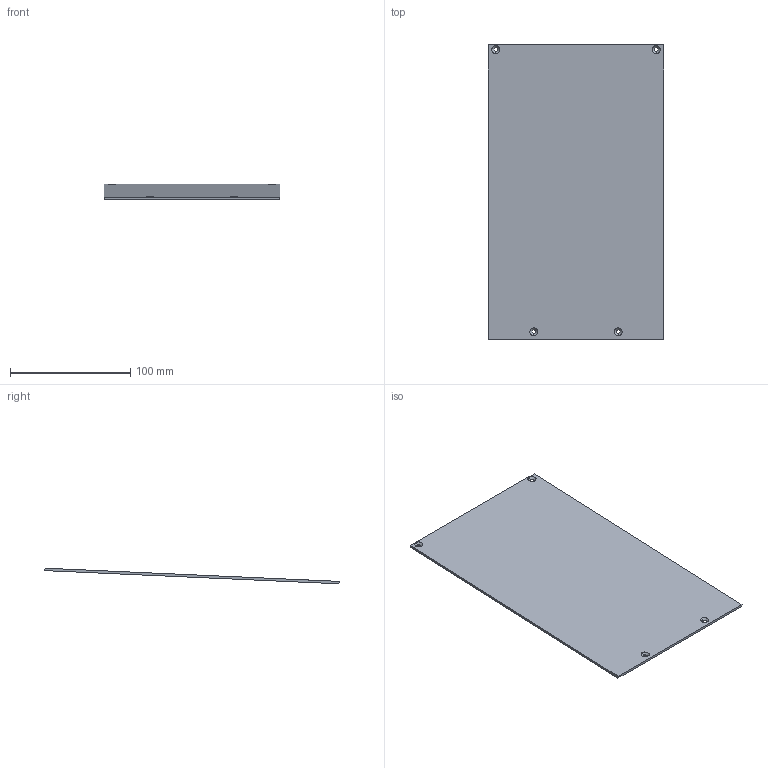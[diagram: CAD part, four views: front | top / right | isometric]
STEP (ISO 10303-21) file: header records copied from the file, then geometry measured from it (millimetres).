
FILE_DESCRIPTION((''),'2;1');
FILE_NAME('KD-B-201B_LOWERFRONTCOVER_1_1_1','2025-07-12T11:08:59',('Administrator'),(''),'CREO PARAMETRIC BY PTC INC, 2022073','CREO PARAMETRIC BY PTC INC, 2022073','');
FILE_SCHEMA(('CONFIG_CONTROL_DESIGN'));
Length unit declared in the file: millimetre
Products named in the file (1): KD-B-201B_LOWERFRONTCOVER_1_1_1
Bounding box: 145.7 x 244.52 x 12.96 mm (x, y, z)
Volume: 71147.1 mm3; surface area: 72844.9 mm2
Topology: 1 solids, 1 shells, 22 faces, 52 edges, 32 vertices
Faces by surface type: cylinder 8, cone 8, plane 6
Entity records: 690 total; most frequent: DIRECTION 120, CARTESIAN_POINT 106, ORIENTED_EDGE 104, EDGE_CURVE 52, AXIS2_PLACEMENT_3D 46, VERTEX_POINT 32, EDGE_LOOP 30, VECTOR 28
